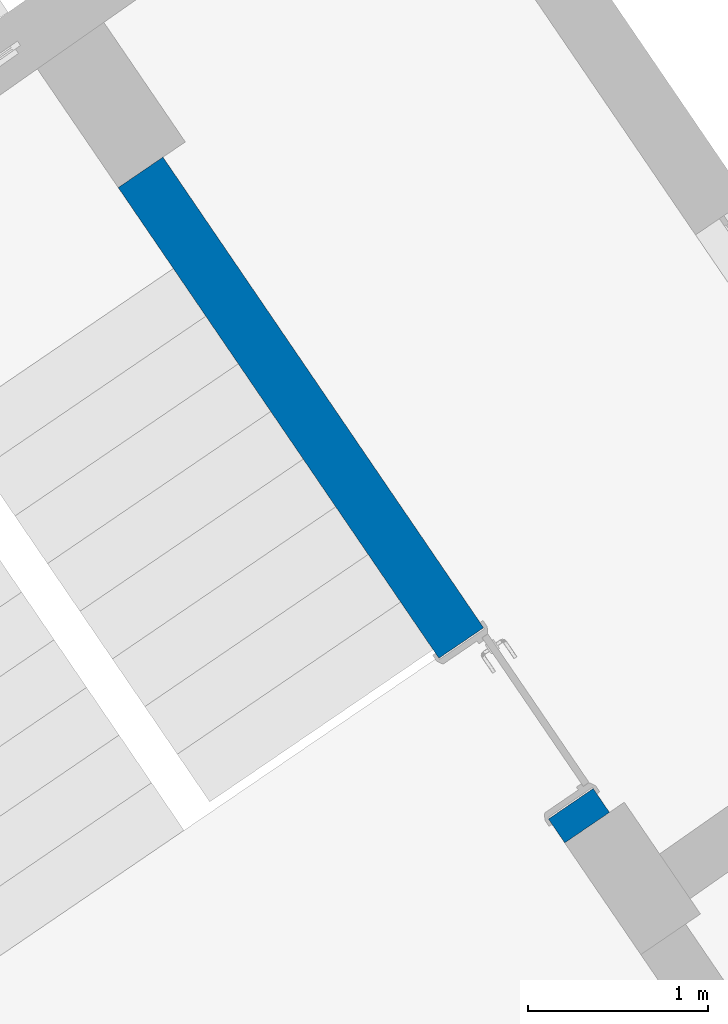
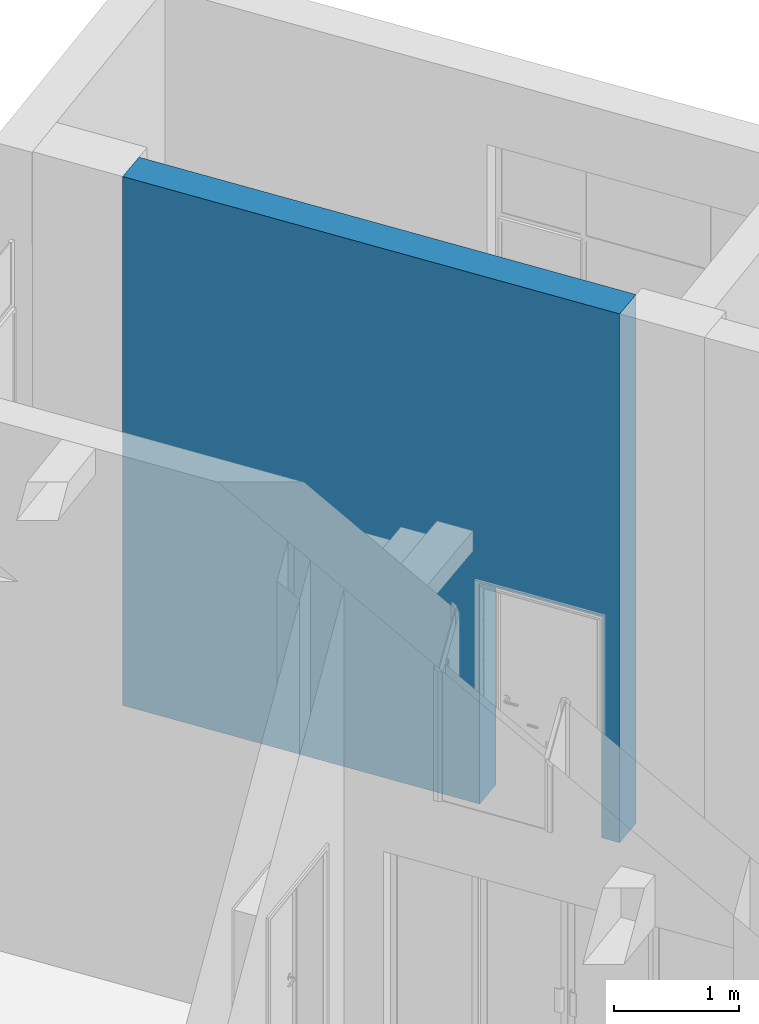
# One storey, part 96 of 157: 1 wall, 1 opening.
"""IFC2X3 building model written with IfcOpenShell, lengths in millimetres."""

import ifcopenshell
import ifcopenshell.guid

model = None  # the IFC model being written
_history = None  # IfcOwnerHistory: only IFC2X3 demands one
_inside = {}  # id of a spatial element -> (the spatial element, [elements in it])
_under = {}  # id of a project, library or spatial element -> (it, [spatial elements below it])
_declared = {}  # id of a project -> (the project, [libraries it declares])
_typed = {}  # id of a type object -> (the type object, [elements of that type])
_made_of = {}  # id of a material, layer set ... -> (it, [elements and type objects made of it])


def new_model(schema):
    """Start an empty IFC model of exactly this schema.

    Asked for "IFC4X3", IfcOpenShell would pick the latest addendum, in which some entities
    have other attributes; the version numbers below select the first issue.
    IFC2X3 requires an IfcOwnerHistory on every rooted entity: one is made here for all.
    """
    global model, _history
    if schema == "IFC4X3":
        model = ifcopenshell.file(schema_version=(4, 3, 0, 0))
    else:
        model = ifcopenshell.file(schema=schema)
    _inside.clear()
    _under.clear()
    _declared.clear()
    _typed.clear()
    _made_of.clear()
    _history = None
    if model.schema == "IFC2X3":
        org = make("IfcOrganization", Name="unknown")
        user = make(
            "IfcPersonAndOrganization",
            ThePerson=make("IfcPerson", FamilyName="unknown"),
            TheOrganization=org,
        )
        app = make(
            "IfcApplication",
            ApplicationDeveloper=org,
            Version="unknown",
            ApplicationFullName="unknown",
            ApplicationIdentifier="unknown",
        )
        _history = make(
            "IfcOwnerHistory",
            OwningUser=user,
            OwningApplication=app,
            ChangeAction="ADDED",
            CreationDate=0,
        )
    return model


def make(cls, **values):
    """One entity of the class cls with the attributes given. An attribute that is None is left unset."""
    return model.create_entity(
        cls, **{name: value for name, value in values.items() if value is not None}
    )


def entity(cls, *values):
    """Any entity or typed value of the class cls, its attributes in the order of the schema. None: left unset."""
    e = model.create_entity(cls)
    for i, value in enumerate(values):
        if value is not None:
            e[i] = value
    return e


def rooted(cls, **values):
    """An entity with a GlobalId (a new one), such as an element, a storey or a relation."""
    return make(cls, GlobalId=ifcopenshell.guid.new(), OwnerHistory=_history, **values)


def si_unit(unit_type, name, prefix=None):
    """IfcSIUnit, for example si_unit("LENGTHUNIT", "METRE", prefix="MILLI")."""
    return make("IfcSIUnit", UnitType=unit_type, Prefix=prefix, Name=name)


def converted_unit(unit_type, name, factor, base, dimensions=None, offset=None):
    """IfcConversionBasedUnit, such as the inch: factor (a typed value) times the base unit."""
    return make(
        "IfcConversionBasedUnit"
        if offset is None
        else "IfcConversionBasedUnitWithOffset",
        ConversionOffset=offset,
        Dimensions=None
        if dimensions is None
        else entity("IfcDimensionalExponents", *dimensions),
        UnitType=unit_type,
        Name=name,
        ConversionFactor=make(
            "IfcMeasureWithUnit", ValueComponent=factor, UnitComponent=base
        ),
    )


def derived_unit(unit_type, elements):
    """IfcDerivedUnit: a product of units, each with its exponent."""
    return make(
        "IfcDerivedUnit",
        Elements=[
            make("IfcDerivedUnitElement", Unit=unit, Exponent=power)
            for unit, power in elements
        ],
        UnitType=unit_type,
    )


def assignment(units):
    """IfcUnitAssignment: the units of a project."""
    return None if units is None else make("IfcUnitAssignment", Units=units)


def point(xyz):
    """IfcCartesianPoint."""
    return None if xyz is None else make("IfcCartesianPoint", Coordinates=xyz)


def direction(xyz):
    """IfcDirection."""
    return None if xyz is None else make("IfcDirection", DirectionRatios=xyz)


def frame(location, z_axis=None, x_axis=None):
    """IfcAxis2Placement3D, a coordinate frame: its origin and axes. An axis left out is left unset."""
    return make(
        "IfcAxis2Placement3D",
        Location=point(location),
        Axis=direction(z_axis),
        RefDirection=direction(x_axis),
    )


def frame_2d(location, x_axis=None):
    """IfcAxis2Placement2D, a coordinate frame in the plane: its origin and x axis."""
    return make(
        "IfcAxis2Placement2D", Location=point(location), RefDirection=direction(x_axis)
    )


def origin():
    """The frame at (0, 0, 0) with its axes left unset."""
    return frame((0.0, 0.0, 0.0))


def place(relative_to, where):
    """IfcLocalPlacement: puts the frame where relative to a parent placement (None: the world)."""
    return make(
        "IfcLocalPlacement", PlacementRelTo=relative_to, RelativePlacement=where
    )


def context(
    kind, dimensions, precision=None, world=None, true_north=None, identifier=None
):
    """IfcGeometricRepresentationContext, for example the 3D "Model" context."""
    return make(
        "IfcGeometricRepresentationContext",
        ContextIdentifier=identifier,
        ContextType=kind,
        CoordinateSpaceDimension=dimensions,
        Precision=precision,
        WorldCoordinateSystem=world,
        TrueNorth=true_north,
    )


def subcontext(parent, identifier, kind, view, scale=None):
    """IfcGeometricRepresentationSubContext, for example "Body" below "Model"."""
    return make(
        "IfcGeometricRepresentationSubContext",
        ContextIdentifier=identifier,
        ContextType=kind,
        ParentContext=parent,
        TargetScale=scale,
        TargetView=view,
    )


def project(units=None, contexts=None):
    """IfcProject with its units and contexts."""
    return rooted(
        "IfcProject",
        Name="project",
        RepresentationContexts=contexts,
        UnitsInContext=assignment(units),
    )


def spatial(cls, under=None, at=None, **own):
    """A site, building, storey or space (cls), placed at a placement, below another one or the project."""
    s = rooted(cls, ObjectPlacement=at, **own)
    if under is not None:
        _under.setdefault(under.id(), (under, []))[1].append(s)
    return s


def profile(cls, at=None, kind="AREA", **sizes):
    """A parametric profile (cls). Its sizes go by their IFC names, for example OverallWidth=200.0."""
    return make(cls, ProfileType=kind, Position=at, **sizes)


def rectangle(**sizes):
    """IfcRectangleProfileDef."""
    return profile("IfcRectangleProfileDef", **sizes)


def extrude(swept, where, along, depth):
    """IfcExtrudedAreaSolid: the profile swept, set in the frame where, extruded along a direction by depth."""
    return make(
        "IfcExtrudedAreaSolid",
        SweptArea=swept,
        Position=where,
        ExtrudedDirection=direction(along),
        Depth=depth,
    )


def shape(context_of_items, identifier, shape_type, items):
    """IfcShapeRepresentation: the items that make up one representation, for example the "Body"."""
    return make(
        "IfcShapeRepresentation",
        ContextOfItems=context_of_items,
        RepresentationIdentifier=identifier,
        RepresentationType=shape_type,
        Items=items,
    )


def material(Name=None, Category=None):
    """IfcMaterial."""
    return make("IfcMaterial", Name=Name, Category=Category)


def layer(
    of_material, thickness, ventilated=None, Name=None, Category=None, Priority=None
):
    """IfcMaterialLayer: one layer of a wall or slab, of a material (None: an air gap)."""
    return make(
        "IfcMaterialLayer",
        Material=of_material,
        LayerThickness=thickness,
        IsVentilated=ventilated,
        Name=Name,
        Category=Category,
        Priority=Priority,
    )


def layer_set(layers, Name=None):
    """IfcMaterialLayerSet."""
    return make("IfcMaterialLayerSet", MaterialLayers=layers, LayerSetName=Name)


def layer_usage(for_layer_set, set_direction, sense, offset, extent=None):
    """IfcMaterialLayerSetUsage: how a layer set lies in its element."""
    return make(
        "IfcMaterialLayerSetUsage",
        ForLayerSet=for_layer_set,
        LayerSetDirection=set_direction,
        DirectionSense=sense,
        OffsetFromReferenceLine=offset,
        ReferenceExtent=extent,
    )


def made_of(thing, what):
    """Note that an element or type object is made of a material, layer set ...; save() writes the relation."""
    if what is not None:
        _made_of.setdefault(what.id(), (what, []))[1].append(thing)
    return thing


def type_object(cls, material=None, **own):
    """A type object (cls), such as IfcWallType, which elements share."""
    return made_of(rooted(cls, **own), material)


def element(
    cls,
    number,
    at=None,
    inside=None,
    cuts=None,
    type_object=None,
    material=None,
    context=None,
    identifier="Body",
    shape_type=None,
    held_by="IfcProductDefinitionShape",
    body=None,
    shapes=None,
    **own,
):
    """One element of the class cls, such as IfcWall. Its Tag is "e" and its number.

    at: its placement. inside: the storey or other place that contains it. cuts: it is an
    opening in that element (IfcRelVoidsElement). A single representation is given by context,
    identifier, shape_type and body (its items); several are given by shapes. held_by: the class
    of the entity that holds the representations. save() writes the other relations.
    """
    e = rooted(cls, Tag="e%d" % number, ObjectPlacement=at, **own)
    if body is not None:
        shapes = [shape(context, identifier, shape_type, body)]
    if shapes is not None:
        e.Representation = make(held_by, Representations=shapes)
    if inside is not None:
        _inside.setdefault(inside.id(), (inside, []))[1].append(e)
    if cuts is not None:
        rooted(
            "IfcRelVoidsElement", RelatingBuildingElement=cuts, RelatedOpeningElement=e
        )
    if type_object is not None:
        _typed.setdefault(type_object.id(), (type_object, []))[1].append(e)
    return made_of(e, material)


def aggregate(whole, parts):
    """IfcRelAggregates: a whole, such as a stair, and the parts it consists of."""
    return rooted("IfcRelAggregates", RelatingObject=whole, RelatedObjects=parts)


def save(model, path):
    """Write the relations noted so far, then the file.

    IfcRelAggregates (storeys below a building ...), IfcRelContainedInSpatialStructure (elements
    in a storey), IfcRelDefinesByType, IfcRelAssociatesMaterial and IfcRelDeclares: one each for
    every whole, place, type object, material and project.
    """
    for whole, parts in _under.values():
        aggregate(whole, parts)
    for where, things in _inside.values():
        rooted(
            "IfcRelContainedInSpatialStructure",
            RelatedElements=things,
            RelatingStructure=where,
        )
    for kind, things in _typed.values():
        rooted("IfcRelDefinesByType", RelatedObjects=things, RelatingType=kind)
    for what, things in _made_of.values():
        rooted("IfcRelAssociatesMaterial", RelatedObjects=things, RelatingMaterial=what)
    for by, libraries in _declared.values():
        rooted("IfcRelDeclares", RelatingContext=by, RelatedDefinitions=libraries)
    model.write(path)


model = new_model("IFC2X3")

# Units and contexts
model_context = context("Model", 3, precision=0.01, world=origin(), true_north=direction((6.123031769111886e-17, 1.0)))
body_context = subcontext(model_context, "Body", "Model", "MODEL_VIEW")
ifc_project = project(units=[si_unit("LENGTHUNIT", "METRE", prefix="MILLI"), si_unit("AREAUNIT", "SQUARE_METRE"), si_unit("VOLUMEUNIT", "CUBIC_METRE"), converted_unit("PLANEANGLEUNIT", "DEGREE", entity("IfcRatioMeasure", 0.017453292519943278), si_unit("PLANEANGLEUNIT", "RADIAN"), dimensions=[0, 0, 0, 0, 0, 0, 0]), si_unit("MASSUNIT", "GRAM", prefix="KILO"), derived_unit("MASSDENSITYUNIT", [(si_unit("MASSUNIT", "GRAM", prefix="KILO"), 1), (si_unit("LENGTHUNIT", "METRE"), -3)]), derived_unit("MOMENTOFINERTIAUNIT", [(si_unit("LENGTHUNIT", "METRE"), 4)]), si_unit("TIMEUNIT", "SECOND"), si_unit("FREQUENCYUNIT", "HERTZ"), si_unit("THERMODYNAMICTEMPERATUREUNIT", "DEGREE_CELSIUS"), derived_unit("THERMALTRANSMITTANCEUNIT", [(si_unit("MASSUNIT", "GRAM", prefix="KILO"), 1), (si_unit("THERMODYNAMICTEMPERATUREUNIT", "KELVIN"), -1), (si_unit("TIMEUNIT", "SECOND"), -3)]), derived_unit("THERMALCONDUCTANCEUNIT", [(si_unit("MASSUNIT", "GRAM", prefix="KILO"), 1), (si_unit("LENGTHUNIT", "METRE"), 1), (si_unit("THERMODYNAMICTEMPERATUREUNIT", "KELVIN"), -1), (si_unit("TIMEUNIT", "SECOND"), -3)]), derived_unit("VOLUMETRICFLOWRATEUNIT", [(si_unit("LENGTHUNIT", "METRE"), 3), (si_unit("TIMEUNIT", "SECOND"), -1)]), derived_unit("MASSFLOWRATEUNIT", [(si_unit("MASSUNIT", "GRAM", prefix="KILO"), 1), (si_unit("TIMEUNIT", "SECOND"), -1)]), derived_unit("ROTATIONALFREQUENCYUNIT", [(si_unit("TIMEUNIT", "SECOND"), -1)]), si_unit("ELECTRICCURRENTUNIT", "AMPERE"), si_unit("ELECTRICVOLTAGEUNIT", "VOLT"), si_unit("POWERUNIT", "WATT"), converted_unit("FORCEUNIT", "KIP", entity("IfcRatioMeasure", 2.088543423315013e-05), si_unit("FORCEUNIT", "NEWTON"), dimensions=[1, 1, -2, 0, 0, 0, 0]), si_unit("ILLUMINANCEUNIT", "LUX"), si_unit("LUMINOUSFLUXUNIT", "LUMEN"), si_unit("LUMINOUSINTENSITYUNIT", "CANDELA"), derived_unit("USERDEFINED", [(si_unit("MASSUNIT", "GRAM", prefix="KILO"), -1), (si_unit("LENGTHUNIT", "METRE"), -2), (si_unit("TIMEUNIT", "SECOND"), 3), (si_unit("LUMINOUSFLUXUNIT", "LUMEN"), 1)]), derived_unit("USERDEFINED", [(si_unit("MASSUNIT", "GRAM", prefix="KILO"), 1), (si_unit("LENGTHUNIT", "METRE"), 3), (si_unit("TIMEUNIT", "SECOND"), -3), (si_unit("ELECTRICCURRENTUNIT", "AMPERE"), -2)]), derived_unit("USERDEFINED", [(si_unit("LENGTHUNIT", "METRE"), 2), (si_unit("TIMEUNIT", "SECOND"), -2)]), derived_unit("SOUNDPOWERUNIT", [(si_unit("MASSUNIT", "GRAM", prefix="KILO"), 1), (si_unit("LENGTHUNIT", "METRE"), 2), (si_unit("TIMEUNIT", "SECOND"), -3)]), derived_unit("SOUNDPRESSUREUNIT", [(si_unit("MASSUNIT", "GRAM", prefix="KILO"), 1), (si_unit("LENGTHUNIT", "METRE"), -1), (si_unit("TIMEUNIT", "SECOND"), -2)]), derived_unit("LINEARVELOCITYUNIT", [(si_unit("LENGTHUNIT", "METRE"), 1), (si_unit("TIMEUNIT", "SECOND"), -1)]), si_unit("PRESSUREUNIT", "PASCAL"), derived_unit("USERDEFINED", [(si_unit("LENGTHUNIT", "METRE"), -2), (si_unit("MASSUNIT", "GRAM", prefix="KILO"), 1), (si_unit("TIMEUNIT", "SECOND"), -2)]), derived_unit("LINEARFORCEUNIT", [(si_unit("MASSUNIT", "GRAM", prefix="KILO"), 1), (si_unit("LENGTHUNIT", "METRE"), 1), (si_unit("TIMEUNIT", "SECOND"), -2), (si_unit("LENGTHUNIT", "METRE"), -1)]), derived_unit("PLANARFORCEUNIT", [(si_unit("MASSUNIT", "GRAM", prefix="KILO"), 1), (si_unit("LENGTHUNIT", "METRE"), 1), (si_unit("TIMEUNIT", "SECOND"), -2), (si_unit("LENGTHUNIT", "METRE"), -2)]), derived_unit("SPECIFICHEATCAPACITYUNIT", [(si_unit("LENGTHUNIT", "METRE"), 2), (si_unit("TIMEUNIT", "SECOND"), -2), (si_unit("THERMODYNAMICTEMPERATUREUNIT", "KELVIN"), -1)]), derived_unit("VAPORPERMEABILITYUNIT", [(si_unit("TIMEUNIT", "SECOND"), 1), (si_unit("LENGTHUNIT", "METRE"), -1)]), derived_unit("DYNAMICVISCOSITYUNIT", [(si_unit("MASSUNIT", "GRAM", prefix="KILO"), 1), (si_unit("LENGTHUNIT", "METRE"), -1), (si_unit("TIMEUNIT", "SECOND"), -1)]), derived_unit("THERMALEXPANSIONCOEFFICIENTUNIT", [(si_unit("THERMODYNAMICTEMPERATUREUNIT", "KELVIN"), -1)])], contexts=[model_context])

# Site, building, storey
site_placement = place(None, frame((0.0, 0.0, 0.0), z_axis=(0.0, 0.0, 1.0), x_axis=(0.8191520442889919, 0.5735764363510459, 0.0)))
site = spatial("IfcSite", under=ifc_project, at=site_placement, Name="Default", CompositionType="ELEMENT")
building_placement = place(site_placement, origin())
building = spatial("IfcBuilding", under=site, at=building_placement, CompositionType="ELEMENT")
storey_placement = place(building_placement, origin())
storey = spatial("IfcBuildingStorey", under=building, at=storey_placement, Name="1.EG +0.00", CompositionType="ELEMENT", Elevation=-4.331468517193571e-12)

# Wall, opening
ifc_material = material(Name="Analytical Wall Surface_CJC")
ifc_layer = layer(ifc_material, 300.0)
ifc_layer_set = layer_set([ifc_layer], Name="Basic Wall:Wand_Innen_30")
ifc_layer_usage = layer_usage(ifc_layer_set, "AXIS2", "NEGATIVE", 150.0)
wall_type = type_object("IfcWallType", Name="Basic Wall:Wand_Innen_30", PredefinedType="STANDARD", material=ifc_layer_set)
wall_placement = place(storey_placement, frame((-206787.8962769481, 167471.9957547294, 0.0), z_axis=(0.0, 0.0, 1.0), x_axis=(0.012729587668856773, 0.9999189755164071, 0.0)))
wall = element("IfcWallStandardCase", 1, at=wall_placement, inside=storey, type_object=wall_type, material=ifc_layer_usage, Name="Basic Wall:Wand_Innen_30", ObjectType="Basic Wall:Wand_Innen_30", context=body_context, shape_type="SweptSolid", body=[
    extrude(rectangle(XDim=4400.674827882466, YDim=300.00000000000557, at=frame_2d((2200.337413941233, 1.7621459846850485e-12), x_axis=(-1.0, 0.0))), origin(), (0.0, 0.0, 1.0), 5150.000000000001),
])
opening_placement = place(wall_placement, frame((1240.0, 150.0, 0.0)))
element("IfcOpeningElement", 2, at=opening_placement, cuts=wall, Name="Doors_IntSgl:100x210:1", ObjectType="Opening", context=body_context, shape_type="SweptSolid", body=[
    extrude(rectangle(XDim=2150.000000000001, YDim=1079.9999999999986, at=frame_2d((1075.0000000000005, 539.9999999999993), x_axis=(1.0, 0.0))), frame((0.0, 0.0, 0.0), z_axis=(0.0, -1.0, 0.0), x_axis=(0.0, 0.0, 1.0)), (0.0, 0.0, 1.0), 299.9999999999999),
])

save(model, "model.ifc")
